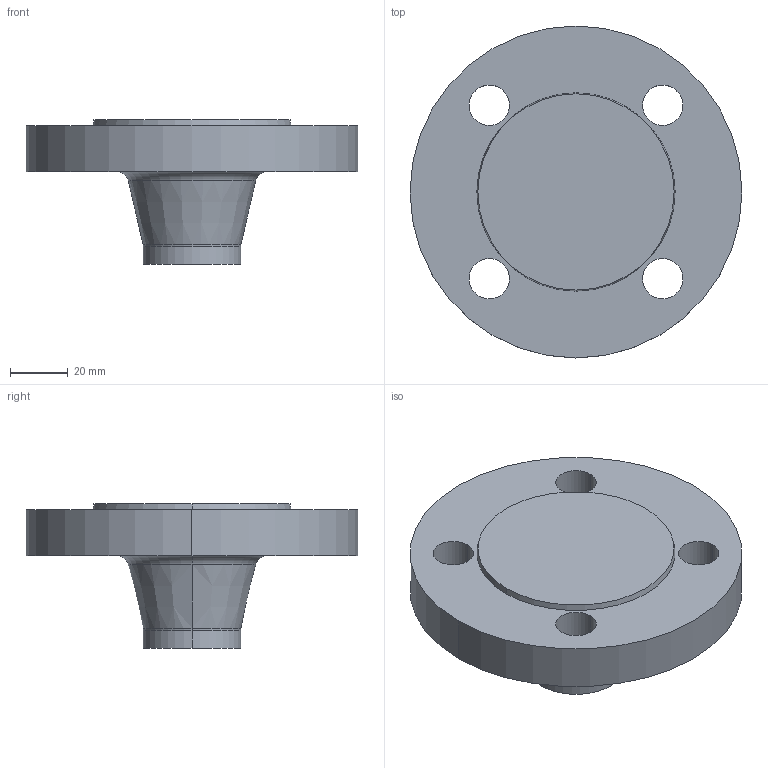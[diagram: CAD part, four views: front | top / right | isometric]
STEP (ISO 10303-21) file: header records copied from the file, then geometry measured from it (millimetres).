
FILE_DESCRIPTION (( 'STEP AP214' ), '1' );
FILE_NAME ('PN40 DN25 Type 21(ii) - Type B Face.STEP', '2018-12-29T20:15:38', ( '' ), ( '' ), 'SwSTEP 2.0', 'SolidWorks 2019', '' );
FILE_SCHEMA (( 'AUTOMOTIVE_DESIGN' ));
Length unit declared in the file: millimetre
Products named in the file (1): PN40 DN25 Type 21(ii) - Type B Face
Bounding box: 115 x 115 x 50 mm (x, y, z)
Volume: 201546.4 mm3; surface area: 31570.3 mm2
Topology: 1 solids, 1 shells, 24 faces, 54 edges, 34 vertices
Faces by surface type: cylinder 12, torus 4, cone 4, plane 4
Entity records: 738 total; most frequent: DIRECTION 142, CARTESIAN_POINT 113, ORIENTED_EDGE 108, AXIS2_PLACEMENT_3D 63, EDGE_CURVE 54, CIRCLE 38, EDGE_LOOP 34, VERTEX_POINT 34
